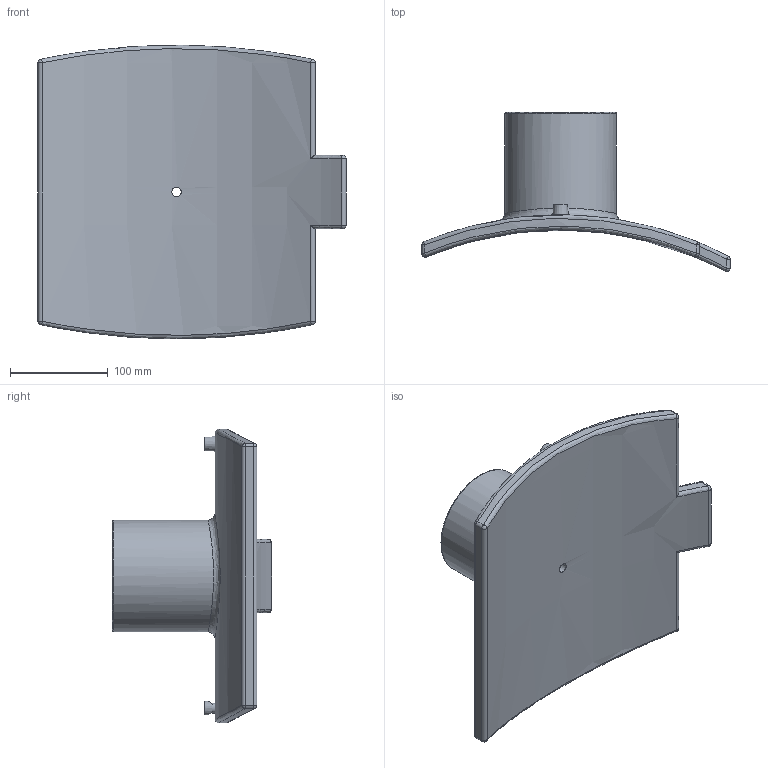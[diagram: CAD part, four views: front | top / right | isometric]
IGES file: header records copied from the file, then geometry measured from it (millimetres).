
Global section: file name: 5958BB03280040.ipt; native system: Autodesk Inventor 2019; preprocessor: unknown; author: KIM; date: 20210830.101233; units: inch
Bounding box: 314.96 x 162.72 x 299.91 mm (x, y, z)
Volume: 1695495.3 mm3; surface area: 260131.7 mm2
Topology: 2 solids, 2 shells, 66 faces, 132 edges, 78 vertices
Faces by surface type: cylinder 22, plane 14, sphere 12, revolution 11, bspline 5, cone 2
Full cylindrical faces by diameter (mm): 4 x2, 16 x1, 114.1 x1
